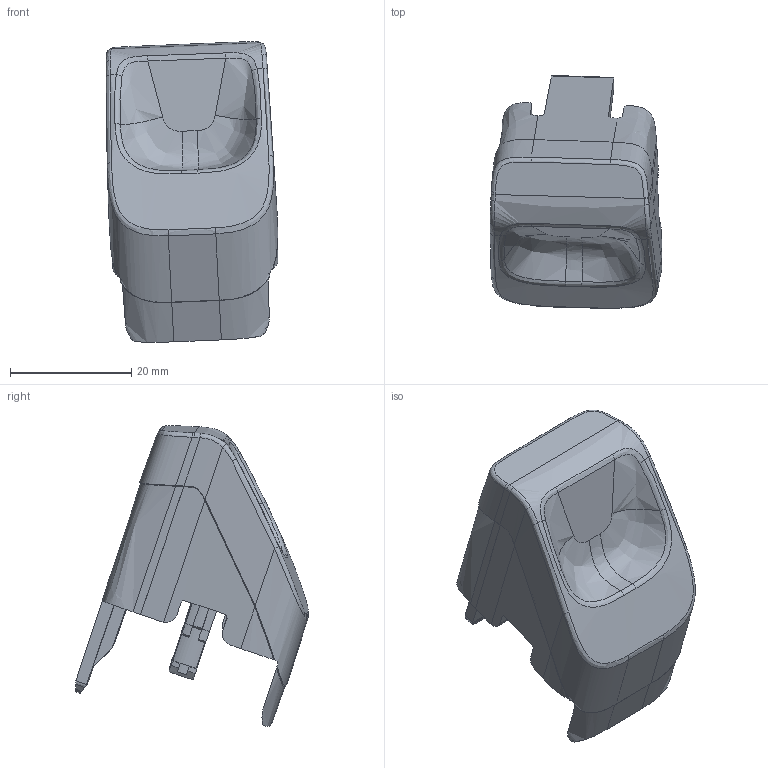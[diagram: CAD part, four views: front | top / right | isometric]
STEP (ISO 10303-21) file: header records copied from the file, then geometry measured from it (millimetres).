
FILE_DESCRIPTION(('CATIA V5 STEP Exchange'),'2;1');
FILE_NAME('F:\11-X3000\2.0平台提升\2.0外观提升\0807\1217更改方案\SHT0011969.stp','2020-12-21T03:24:57+00:00',('none'),('none'),'CATIA Version 5 Release 20 GA (IN-10)','CATIA V5 STEP AP203 Edition 2','none');
FILE_SCHEMA(('AP203_CONFIGURATION_CONTROLLED_3D_DESIGN_OF_MECHANICAL_PARTS_AND_ASSEMBLIES_MIM_LF { 1 0 10303 403 2 1 2}'));
Length unit declared in the file: millimetre
Products named in the file (1): SHT0011969
Bounding box: 28.34 x 38.48 x 49.63 mm (x, y, z)
Volume: 10063.3 mm3; surface area: 8782.1 mm2
Topology: 1 solids, 1 shells, 356 faces, 991 edges, 633 vertices
Faces by surface type: bspline 219, plane 72, cylinder 47, cone 12, sphere 4, torus 2
Entity records: 28558 total; most frequent: CARTESIAN_POINT 21943, ORIENTED_EDGE 1974, EDGE_CURVE 987, B_SPLINE_CURVE_WITH_KNOTS 800, VERTEX_POINT 633, DIRECTION 357, ADVANCED_FACE 356, EDGE_LOOP 356
